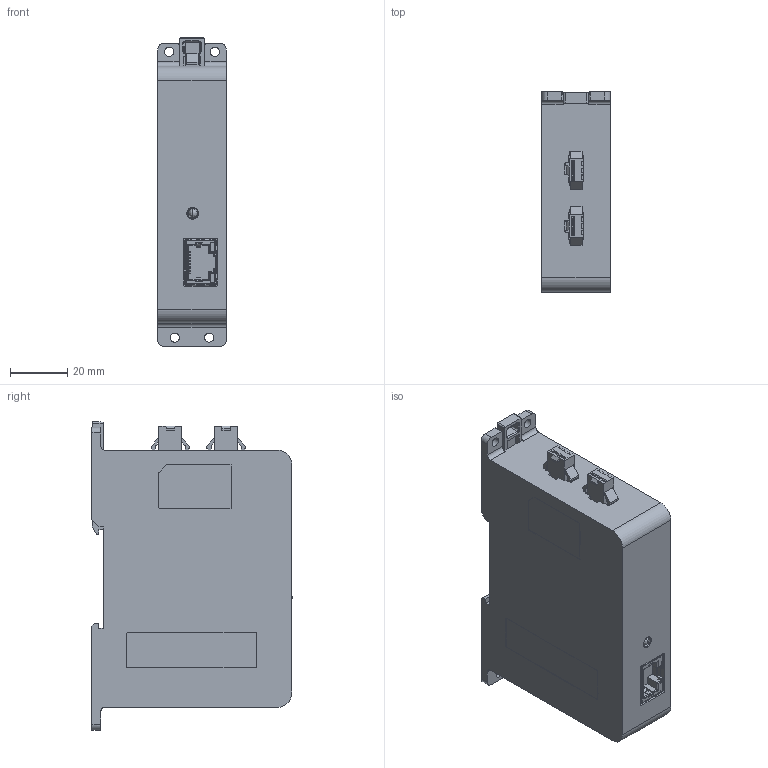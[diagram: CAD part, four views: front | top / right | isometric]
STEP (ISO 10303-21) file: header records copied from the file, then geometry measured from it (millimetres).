
FILE_DESCRIPTION((''),'2;1');
FILE_NAME('LS-LE100-24W-24-2T','2024-12-27T09:54:10',('LumaSpec Vision'),('LumaSpec Vision'),'CREO PARAMETRIC BY PTC INC, 2020044','CREO PARAMETRIC BY PTC INC, 2020044','');
FILE_SCHEMA(('CONFIG_CONTROL_DESIGN'));
Products named in the file (1): PRT0001
Bounding box: 24 x 70.1 x 107.9 mm (x, y, z)
Volume: 136933.9 mm3; surface area: 37732.6 mm2
Topology: 1 solids, 15 shells, 1431 faces, 4012 edges, 2559 vertices
Faces by surface type: plane 904, cylinder 292, cone 110, bspline 103, torus 14, sphere 8
Entity records: 55009 total; most frequent: CARTESIAN_POINT 18595, ORIENTED_EDGE 7988, DIRECTION 6929, EDGE_CURVE 3994, VECTOR 2947, LINE 2947, VERTEX_POINT 2559, AXIS2_PLACEMENT_3D 1991
